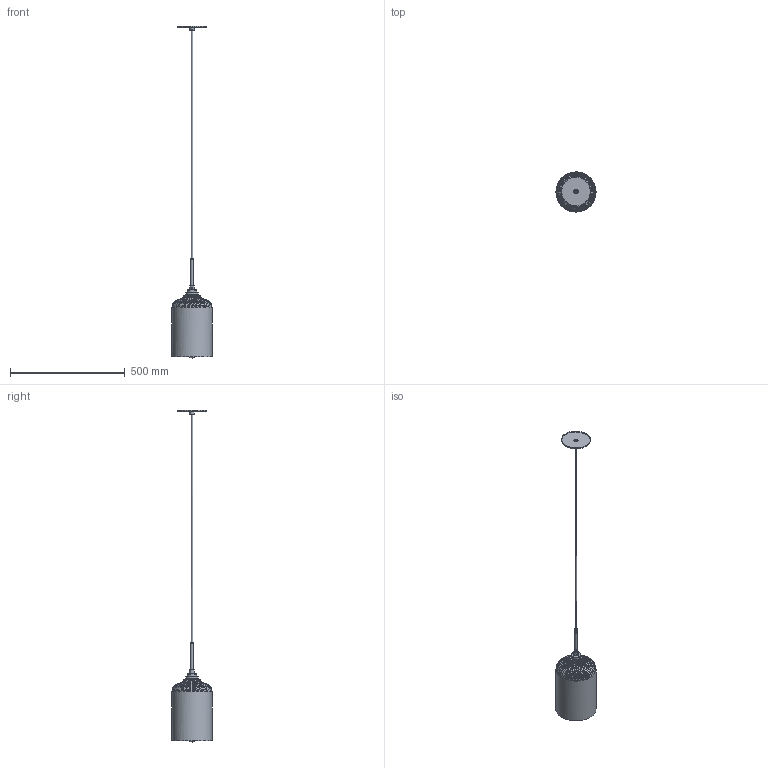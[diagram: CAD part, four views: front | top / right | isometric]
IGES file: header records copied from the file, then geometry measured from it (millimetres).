
Global section: file name: Niche - Bella Pendant; native system: unknown; preprocessor: unknown; author: unknown; organization: unknown; date: 20220927.153803; units: inch
Bounding box: 175 x 174.96 x 1449.32 mm (x, y, z)
Volume: 717510.7 mm3; surface area: 421946.4 mm2
Topology: 11 solids, 11 shells, 175 faces, 479 edges, 330 vertices
Faces by surface type: bspline 175
